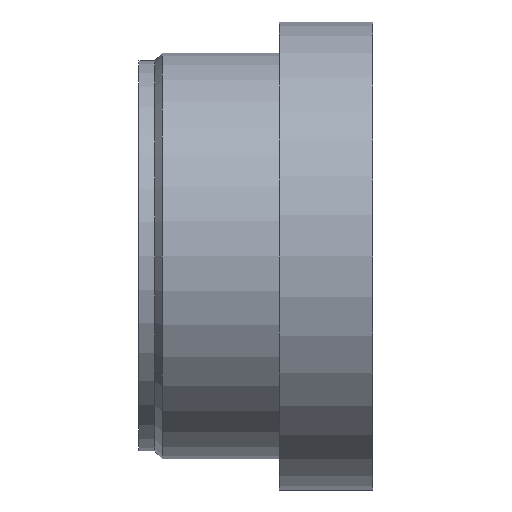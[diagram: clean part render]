
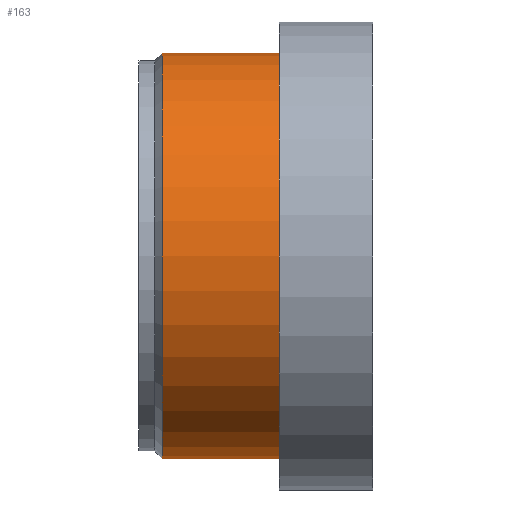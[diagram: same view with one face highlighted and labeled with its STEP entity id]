
A CAD part, front view. The second image highlights one B-rep face of the part: STEP entity #163.
In plain terms, the highlighted cylindrical face has radius 26 mm (diameter 52 mm), a full revolution.
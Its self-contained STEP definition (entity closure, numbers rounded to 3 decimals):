
#32=FACE_BOUND($,#69,.T.);
#45=FACE_OUTER_BOUND($,#68,.T.);
#68=EDGE_LOOP($,(#138));
#69=EDGE_LOOP($,(#139));
#86=CIRCLE($,#190,26.);
#87=CIRCLE($,#192,26.);
#100=VERTEX_POINT($,#287);
#101=VERTEX_POINT($,#290);
#114=EDGE_CURVE($,#100,#100,#86,.T.);
#115=EDGE_CURVE($,#101,#101,#87,.T.);
#138=ORIENTED_EDGE($,*,*,#115,.F.);
#139=ORIENTED_EDGE($,*,*,#114,.T.);
#151=CYLINDRICAL_SURFACE($,#191,26.);
#163=ADVANCED_FACE($,(#45,#32),#151,.T.);
#190=AXIS2_PLACEMENT_3D($,#288,#240,#241);
#191=AXIS2_PLACEMENT_3D($,#289,#242,#243);
#192=AXIS2_PLACEMENT_3D($,#291,#244,#245);
#240=DIRECTION('center_axis',(1.,0.,0.));
#241=DIRECTION('ref_axis',(0.,1.,0.));
#242=DIRECTION('center_axis',(1.,0.,0.));
#243=DIRECTION('ref_axis',(0.,1.,0.));
#244=DIRECTION('center_axis',(1.,0.,0.));
#245=DIRECTION('ref_axis',(0.,1.,0.));
#287=CARTESIAN_POINT('',(3.,26.,0.));
#288=CARTESIAN_POINT('Origin',(3.,0.,0.));
#289=CARTESIAN_POINT('Origin',(10.5,0.,0.));
#290=CARTESIAN_POINT('',(18.,26.,0.));
#291=CARTESIAN_POINT('Origin',(18.,0.,0.));
